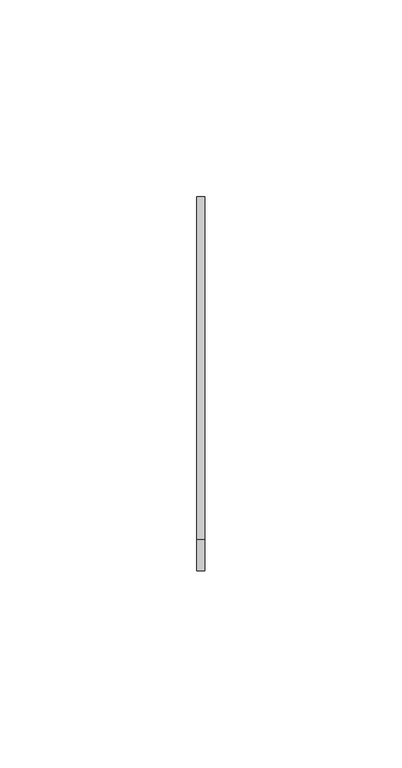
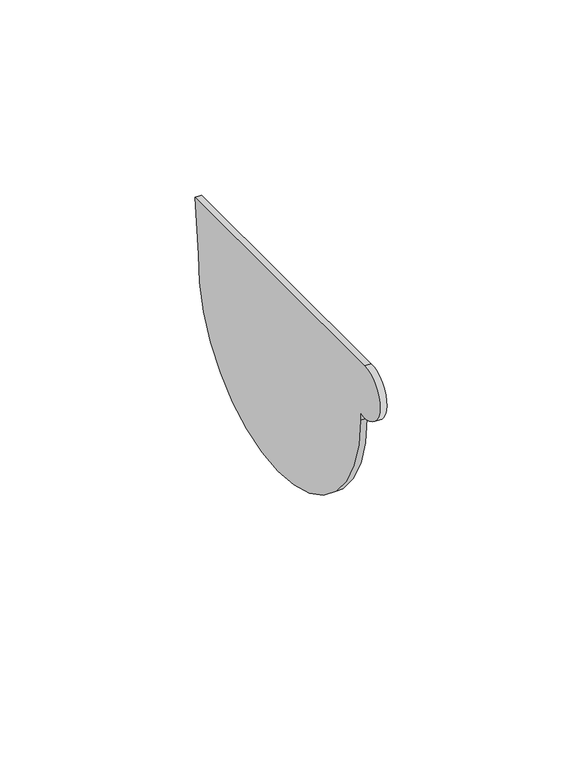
"""IFC4 building model written with IfcOpenShell, lengths in millimetres: proxy geometry, Odbojnik przyścienny R75 : Odbojnik przyścienny R75."""

from ifc_helpers import new_model, si_unit, point, frame, frame_2d, origin, place, context, project, spatial, polyline, circle_curve, trimmed, segment, composite_curve, outline, extrude, source, transform, mapped, element, save


def generic_models_37c944d1(model_context):
    return source(origin(), model_context, "Body", "SweptSolid", [
        extrude(outline(composite_curve([segment(polyline([(-13.794803, 7.6372489), (-13.794803, 10.0460984)]), True, "CONTINUOUS"), segment(trimmed(circle_curve(frame_2d((-15.8603939, 17.8782973)), 8.1000004), [point((-13.794803, 10.0460984))], [point((-15.8603939, 25.9782977))], False, "CARTESIAN"), True, "CONTINUOUS"), segment(polyline([(-15.8603939, 25.9782977), (70.9615547, 25.9782977), (69.1782533, 9.1324432)]), True, "CONTINUOUS"), segment(trimmed(circle_curve(frame_2d((27.705197, 7.6372489)), 41.5), [point((69.1782533, 9.1324432))], [point((-13.794803, 7.6372489))], False, "CARTESIAN"), True, "CONTINUOUS")], self_intersect=False)), frame((-3.0, 0.0, 0.0), z_axis=(1.0, 0.0, 0.0), x_axis=(0.0, 1.0, 0.0)), (0.0, 0.0, 1.0), 2.0),
    ])


if __name__ == "__main__":
    model = new_model("IFC4")
    model_context = context("Model", 3, world=origin())
    ifc_project = project(units=[si_unit("LENGTHUNIT", "METRE", prefix="MILLI")], contexts=[model_context])
    site = spatial("IfcSite", under=ifc_project)
    building = spatial("IfcBuilding", under=site)
    placement = place(None, origin())
    generic_models_shape = generic_models_37c944d1(model_context)
    element("IfcBuildingElementProxy", 1, Name="Odbojnik przyścienny R75 : Odbojnik przyścienny R75", ObjectType="Odbojnik przyścienny R75 : Odbojnik przyścienny R75", at=placement, inside=building, context=model_context, shape_type="MappedRepresentation", body=[
        mapped(generic_models_shape, transform((0.0, 0.0, 0.0), x_axis=(1.0, 0.0, 0.0), y_axis=(0.0, 1.0, 0.0), z_axis=(0.0, 0.0, 1.0))),
    ])
    save(model, "model.ifc")
